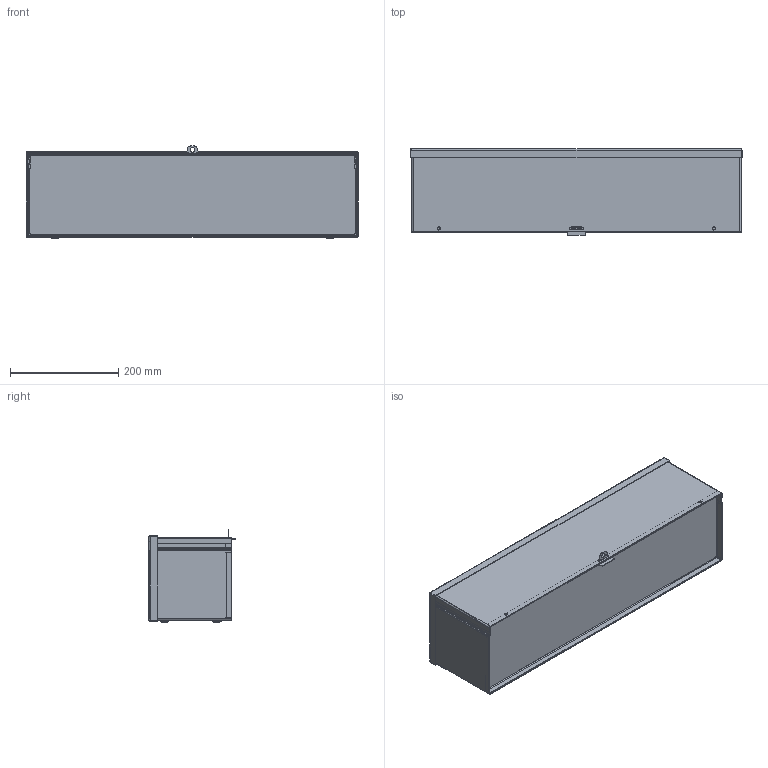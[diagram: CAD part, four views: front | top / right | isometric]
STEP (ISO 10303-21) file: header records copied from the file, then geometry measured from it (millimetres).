
FILE_DESCRIPTION((''),'2;1');
FILE_NAME('D:\scratch\ideas\3rt_assy_6x6x24.stp', '2005-12-16T10:52:11',('User'),('SDRC'),'I-DEAS Master Series 9','UNIX', 'Yes');
FILE_SCHEMA(('AUTOMOTIVE_DESIGN { 1 0 10303 214 0 1 1 1 }'));
Length unit declared in the file: inch
Products named in the file (6): 13817; 87780712; 87780612; 87780779; 87780656; 78124001
Assembly tree (5 placements, depth 2):
  13817
    87780712
    87780612
    87780779
    87780656
    78124001
Bounding box: 613.16 x 160.29 x 170 mm (x, y, z)
Volume: 649314.4 mm3; surface area: 939957.4 mm2
Topology: 5 solids, 5 shells, 203 faces, 523 edges, 338 vertices
Faces by surface type: bspline 203
Entity records: 6546 total; most frequent: CARTESIAN_POINT 3142, ORIENTED_EDGE 1046, EDGE_CURVE 523, VERTEX_POINT 338, QUASI_UNIFORM_CURVE 315, EDGE_LOOP 233, FACE_OUTER_BOUND 203, ADVANCED_FACE 203
